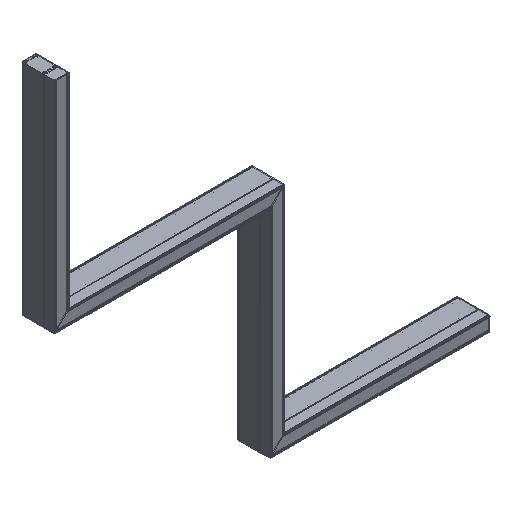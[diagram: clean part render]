
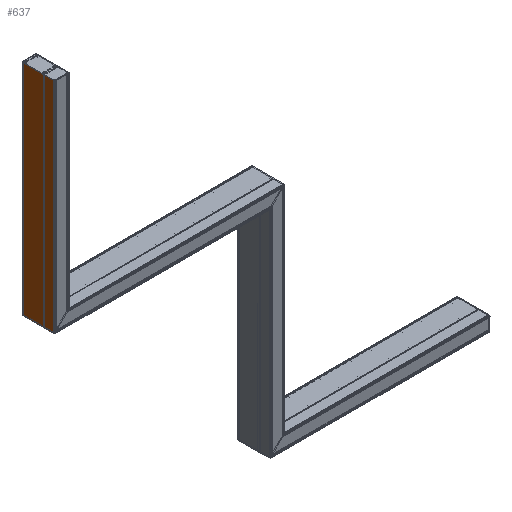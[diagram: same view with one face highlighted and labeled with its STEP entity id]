
A CAD part, isometric view. The second image highlights one B-rep face of the part: STEP entity #637.
In plain terms, the highlighted planar face has unit normal (-1, 0, 0).
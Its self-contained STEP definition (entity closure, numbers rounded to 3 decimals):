
#637=ADVANCED_FACE('',(#2274),#2276,.T.);
#2274=FACE_BOUND('',#2275,.T.);
#2275=EDGE_LOOP('',(#8359,#8360,#8361,#8362));
#2276=PLANE('',#2277);
#2277=AXIS2_PLACEMENT_3D('',#2278,#2279,#2280);
#2278=CARTESIAN_POINT('',(-17.5,4.,-264.5));
#2279=DIRECTION('',(-1.,0.,0.));
#2280=DIRECTION('',(0.,-1.,0.));
#8359=ORIENTED_EDGE('',*,*,#12346,.T.);
#8360=ORIENTED_EDGE('',*,*,#12685,.T.);
#8361=ORIENTED_EDGE('',*,*,#12529,.F.);
#8362=ORIENTED_EDGE('',*,*,#12686,.F.);
#12346=EDGE_CURVE('',#14739,#14737,#14740,.F.);
#12529=EDGE_CURVE('',#15101,#15103,#15104,.T.);
#12685=EDGE_CURVE('',#14737,#15103,#15328,.T.);
#12686=EDGE_CURVE('',#14739,#15101,#15329,.T.);
#14737=VERTEX_POINT('',#18817);
#14739=VERTEX_POINT('',#18822);
#14740=LINE('',#18823,#18824);
#15101=VERTEX_POINT('',#19657);
#15103=VERTEX_POINT('',#19662);
#15104=LINE('',#19663,#19664);
#15328=LINE('',#20241,#20242);
#15329=LINE('',#20244,#20245);
#18817=CARTESIAN_POINT('',(-17.5,-73.75,-264.5));
#18822=CARTESIAN_POINT('',(-17.5,4.,-264.5));
#18823=CARTESIAN_POINT('',(-17.5,-73.75,-264.5));
#18824=VECTOR('',#18825,1.);
#18825=DIRECTION('',(0.,1.,0.));
#19657=CARTESIAN_POINT('',(-17.5,4.,264.5));
#19662=CARTESIAN_POINT('',(-17.5,-73.75,264.5));
#19663=CARTESIAN_POINT('',(-17.5,4.,264.5));
#19664=VECTOR('',#19665,1.);
#19665=DIRECTION('',(0.,-1.,0.));
#20241=CARTESIAN_POINT('',(-17.5,-73.75,-264.5));
#20242=VECTOR('',#20243,1.);
#20243=DIRECTION('',(0.,0.,1.));
#20244=CARTESIAN_POINT('',(-17.5,4.,-264.5));
#20245=VECTOR('',#20246,1.);
#20246=DIRECTION('',(0.,0.,1.));
